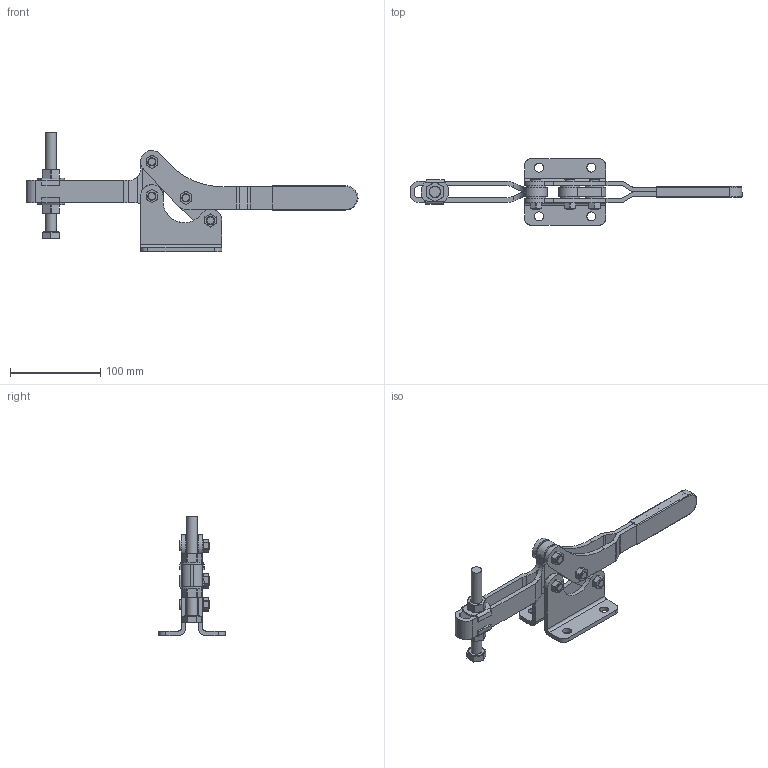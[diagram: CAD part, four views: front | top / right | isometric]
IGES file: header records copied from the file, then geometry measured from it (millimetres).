
Global section: file name: DR_065-22F; native system: Autodesk Inventor 2015; preprocessor: unknown; author: Administrator; date: 20180302.152536; units: millimetre
Bounding box: 367.97 x 74 x 132 mm (x, y, z)
Volume: 227597 mm3; surface area: 119972.2 mm2
Topology: 17 solids, 17 shells, 499 faces, 1174 edges, 730 vertices
Faces by surface type: bspline 499
